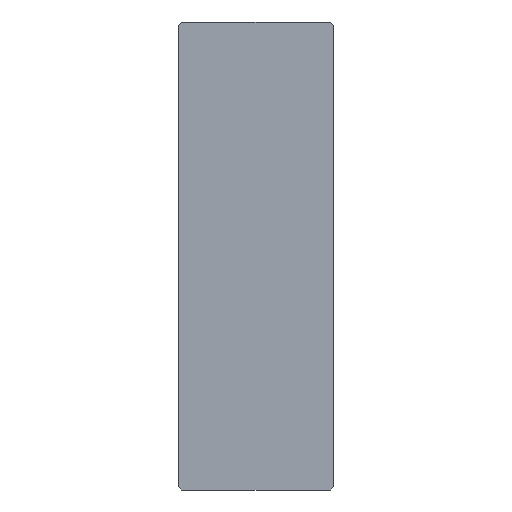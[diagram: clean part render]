
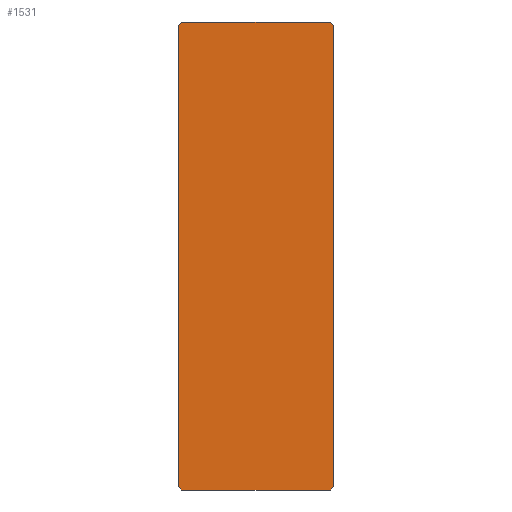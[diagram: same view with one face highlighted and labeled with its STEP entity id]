
A CAD part, front view. The second image highlights one B-rep face of the part: STEP entity #1531.
In plain terms, the highlighted planar face has unit normal (0, -1, 0).
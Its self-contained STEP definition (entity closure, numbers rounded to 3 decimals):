
#561=CARTESIAN_POINT(' ',(-46.5,0.,146.5));
#566=DIRECTION(' ',(1.,0.,0.));
#571=VECTOR(' ',#566,1.);
#576=LINE('',#561,#571);
#581=CARTESIAN_POINT(' ',(-46.5,0.,146.5));
#582=VERTEX_POINT(' ',#581);
#586=CARTESIAN_POINT(' ',(46.5,0.,146.5));
#587=VERTEX_POINT(' ',#586);
#591=EDGE_CURVE(' ',#582,#587,#576,.T.);
#716=CARTESIAN_POINT(' ',(48.5,0.,144.5));
#721=DIRECTION(' ',(-0.707,0.,0.707));
#726=VECTOR(' ',#721,1.);
#731=LINE('',#716,#726);
#736=CARTESIAN_POINT(' ',(48.5,0.,144.5));
#737=VERTEX_POINT(' ',#736);
#741=EDGE_CURVE(' ',#737,#587,#731,.T.);
#831=CARTESIAN_POINT(' ',(48.5,0.,144.5));
#836=DIRECTION(' ',(0.,0.,-1.));
#841=VECTOR(' ',#836,1.);
#846=LINE('',#831,#841);
#851=CARTESIAN_POINT(' ',(48.5,0.,-144.5));
#852=VERTEX_POINT(' ',#851);
#856=EDGE_CURVE(' ',#737,#852,#846,.T.);
#946=CARTESIAN_POINT(' ',(46.5,0.,-146.5));
#951=DIRECTION(' ',(0.707,0.,0.707));
#956=VECTOR(' ',#951,1.);
#961=LINE('',#946,#956);
#966=CARTESIAN_POINT(' ',(46.5,0.,-146.5));
#967=VERTEX_POINT(' ',#966);
#971=EDGE_CURVE(' ',#967,#852,#961,.T.);
#1051=CARTESIAN_POINT(' ',(-46.5,0.,-146.5));
#1056=DIRECTION(' ',(1.,0.,0.));
#1061=VECTOR(' ',#1056,1.);
#1066=LINE('',#1051,#1061);
#1071=CARTESIAN_POINT(' ',(-46.5,0.,-146.5));
#1072=VERTEX_POINT(' ',#1071);
#1076=EDGE_CURVE(' ',#1072,#967,#1066,.T.);
#1166=CARTESIAN_POINT(' ',(-48.5,0.,-144.5));
#1171=DIRECTION(' ',(0.707,0.,-0.707));
#1176=VECTOR(' ',#1171,1.);
#1181=LINE('',#1166,#1176);
#1186=CARTESIAN_POINT(' ',(-48.5,0.,-144.5));
#1187=VERTEX_POINT(' ',#1186);
#1191=EDGE_CURVE(' ',#1187,#1072,#1181,.T.);
#1281=CARTESIAN_POINT(' ',(-48.5,0.,144.5));
#1286=DIRECTION(' ',(0.,0.,-1.));
#1291=VECTOR(' ',#1286,1.);
#1296=LINE('',#1281,#1291);
#1301=CARTESIAN_POINT(' ',(-48.5,0.,144.5));
#1302=VERTEX_POINT(' ',#1301);
#1306=EDGE_CURVE(' ',#1302,#1187,#1296,.T.);
#1396=CARTESIAN_POINT(' ',(-46.5,0.,146.5));
#1401=DIRECTION(' ',(-0.707,0.,-0.707));
#1406=VECTOR(' ',#1401,1.);
#1411=LINE('',#1396,#1406);
#1416=EDGE_CURVE(' ',#582,#1302,#1411,.T.);
#1456=DIRECTION(' ',(-0.,-1.,-0.));
#1461=CARTESIAN_POINT(' ',(-48.5,0.,-146.5));
#1466=DIRECTION(' ',(1.,0.,-0.));
#1471=AXIS2_PLACEMENT_3D(' ',#1461,#1456,#1466);
#1476=PLANE('NONE',#1471);
#1481=ORIENTED_EDGE(' ',*,*,#856,.F.);
#1486=ORIENTED_EDGE(' ',*,*,#741,.T.);
#1491=ORIENTED_EDGE(' ',*,*,#591,.F.);
#1496=ORIENTED_EDGE(' ',*,*,#1416,.T.);
#1501=ORIENTED_EDGE(' ',*,*,#1306,.T.);
#1506=ORIENTED_EDGE(' ',*,*,#1191,.T.);
#1511=ORIENTED_EDGE(' ',*,*,#1076,.T.);
#1516=ORIENTED_EDGE(' ',*,*,#971,.T.);
#1521=EDGE_LOOP(' ',(#1481,#1486,#1491,#1496,#1501,#1506,#1511,#1516));
#1526=FACE_OUTER_BOUND(' ',#1521,.T.);
#1531=ADVANCED_FACE('NONE',(#1526),#1476,.T.);
